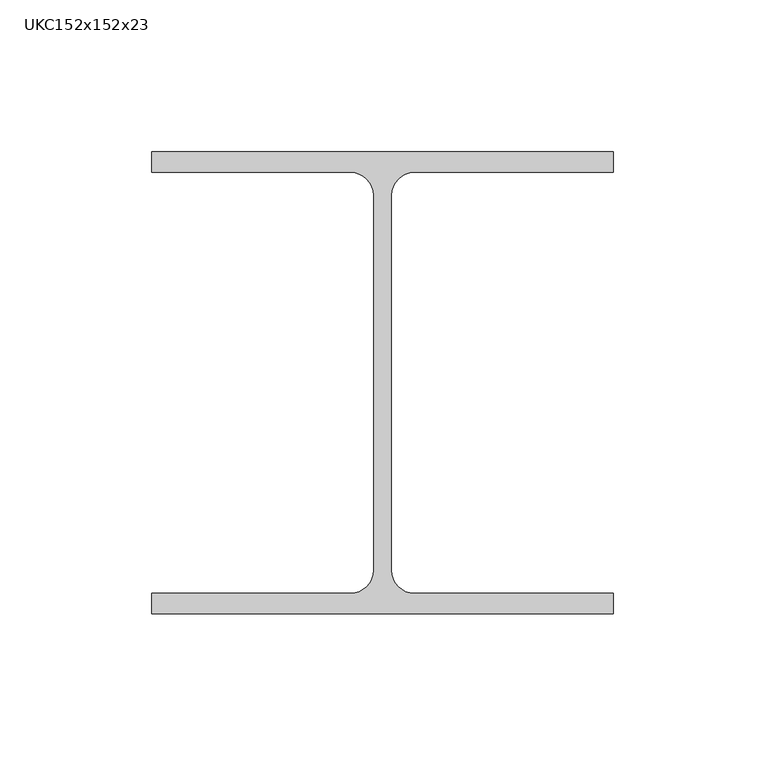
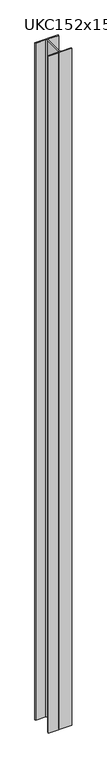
"""IFC4 building model written with IfcOpenShell, lengths in millimetres: column geometry, UKC-UK Columns-Column : UKC152x152x23."""

from ifc_helpers import new_model, si_unit, point, frame, frame_2d, origin, place, context, project, spatial, polyline, circle_curve, trimmed, segment, composite_curve, outline, extrude, source, transform, mapped, element, save


def ukc152x152x23_50c3cb11(model_context):
    return source(origin(), model_context, "Body", "SweptSolid", [
        extrude(outline(composite_curve([segment(polyline([(76.1, 76.2), (76.1, 69.4), (10.5, 69.4)]), True, "CONTINUOUS"), segment(trimmed(circle_curve(frame_2d((10.5, 61.8)), 7.6), [point((10.5, 69.4))], [point((2.9, 61.8))], True, "CARTESIAN"), True, "CONTINUOUS"), segment(polyline([(2.9, 61.8), (2.9, -61.8)]), True, "CONTINUOUS"), segment(trimmed(circle_curve(frame_2d((10.5, -61.8)), 7.6), [point((2.9, -61.8))], [point((10.5, -69.4))], True, "CARTESIAN"), True, "CONTINUOUS"), segment(polyline([(10.5, -69.4), (76.1, -69.4), (76.1, -76.2), (-76.1, -76.2), (-76.1, -69.4), (-10.5, -69.4)]), True, "CONTINUOUS"), segment(trimmed(circle_curve(frame_2d((-10.5, -61.8)), 7.6), [point((-10.5, -69.4))], [point((-2.9, -61.8))], True, "CARTESIAN"), True, "CONTINUOUS"), segment(polyline([(-2.9, -61.8), (-2.9, 61.8)]), True, "CONTINUOUS"), segment(trimmed(circle_curve(frame_2d((-10.5, 61.8)), 7.6), [point((-2.9, 61.8))], [point((-10.5, 69.4))], True, "CARTESIAN"), True, "CONTINUOUS"), segment(polyline([(-10.5, 69.4), (-76.1, 69.4), (-76.1, 76.2), (76.1, 76.2)]), True, "CONTINUOUS")], self_intersect=False)), frame((0.0, 0.0, -450.0), z_axis=(0.0, 0.0, 1.0), x_axis=(1.0, 0.0, 0.0)), (0.0, 0.0, 1.0), 4650.0),
    ])


if __name__ == "__main__":
    model = new_model("IFC4")
    model_context = context("Model", 3, world=origin())
    ifc_project = project(units=[si_unit("LENGTHUNIT", "METRE", prefix="MILLI")], contexts=[model_context])
    site = spatial("IfcSite", under=ifc_project)
    building = spatial("IfcBuilding", under=site)
    placement = place(None, origin())
    ukc152x152x23_shape = ukc152x152x23_50c3cb11(model_context)
    element("IfcColumn", 1, ObjectType="UKC-UK Columns-Column : UKC152x152x23", at=placement, inside=building, context=model_context, shape_type="MappedRepresentation", body=[
        mapped(ukc152x152x23_shape, transform((0.0, 0.0, 0.0), x_axis=(1.0, 0.0, 0.0), y_axis=(0.0, 1.0, 0.0), z_axis=(0.0, 0.0, 1.0))),
    ])
    save(model, "model.ifc")
